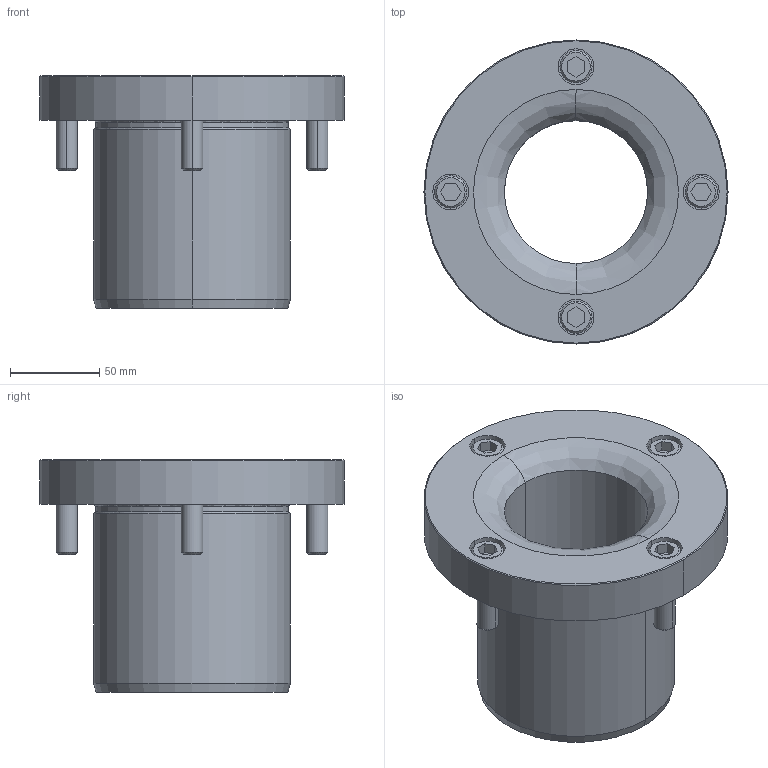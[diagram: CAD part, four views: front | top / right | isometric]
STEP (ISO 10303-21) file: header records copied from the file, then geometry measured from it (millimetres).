
FILE_DESCRIPTION((''),'2;1');
FILE_NAME('','2010-09-07T13:57:00+09:00',('misumi'),(''),'M/STEP i/f 1R2-14','CADmeister v5.1','');
FILE_SCHEMA(('AUTOMOTIVE_DESIGN'));
Length unit declared in the file: millimetre
Products named in the file (1): HGBF80
Bounding box: 170 x 170 x 130 mm (x, y, z)
Volume: 898917.6 mm3; surface area: 131107.8 mm2
Topology: 5 solids, 5 shells, 115 faces, 250 edges, 158 vertices
Faces by surface type: plane 47, cylinder 40, cone 20, revolution 8
Entity records: 3339 total; most frequent: DIRECTION 608, CARTESIAN_POINT 528, ORIENTED_EDGE 492, EDGE_CURVE 246, AXIS2_PLACEMENT_3D 234, VERTEX_POINT 154, EDGE_LOOP 138, LINE 132
